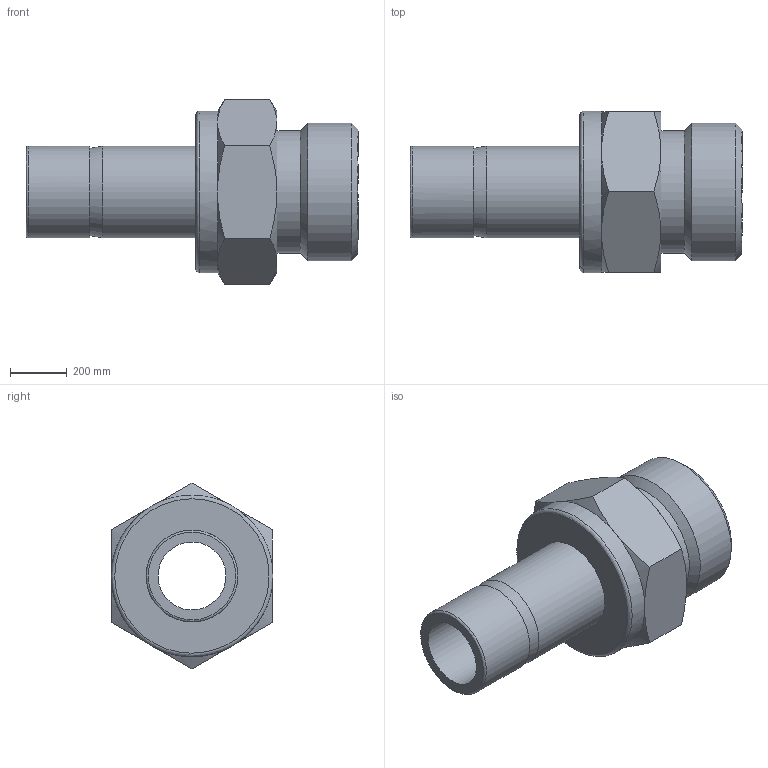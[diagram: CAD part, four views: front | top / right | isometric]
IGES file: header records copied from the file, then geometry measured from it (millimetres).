
Global section: file name: SSMA-8-8U; native system: Autodesk Inventor 2016; preprocessor: unknown; author: DESIGNPC2; date: 20160125.095750; units: millimetre
Bounding box: 1165.86 x 567.4 x 651.85 mm (x, y, z)
Volume: 120908421.2 mm3; surface area: 2903682.5 mm2
Topology: 1 solids, 1 shells, 36 faces, 93 edges, 62 vertices
Faces by surface type: bspline 36
